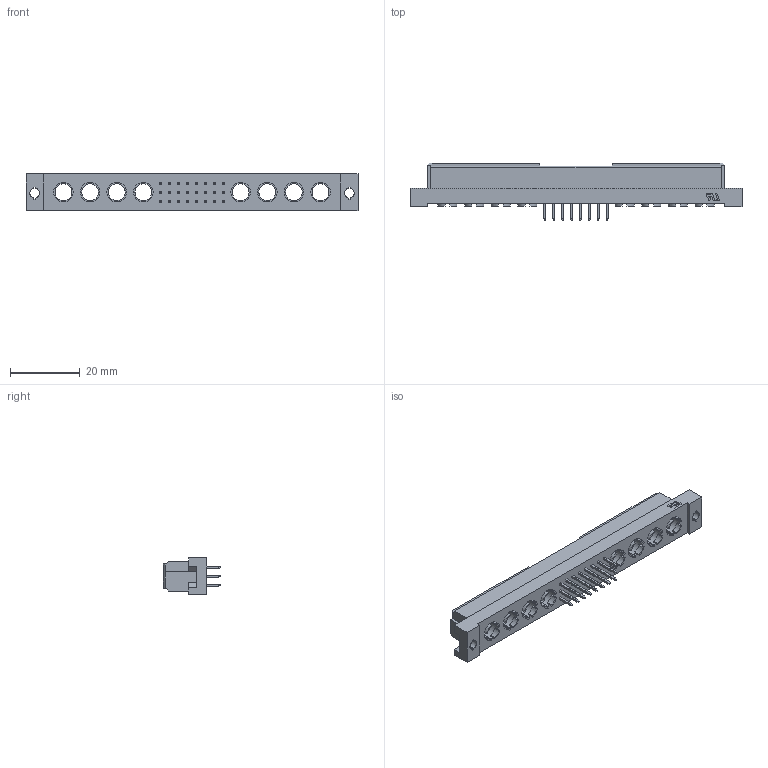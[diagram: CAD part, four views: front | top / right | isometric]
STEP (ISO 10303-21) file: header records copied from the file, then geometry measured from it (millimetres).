
FILE_DESCRIPTION (( 'STEP AP214' ), '1' );
FILE_NAME ('9001-9224081C00DA.STEP', '2020-12-02T09:18:54', ( 'ADMIN' ), ( '' ), 'SwSTEP 2.0', 'SolidWorks 2011', '' );
FILE_SCHEMA (( 'AUTOMOTIVE_DESIGN' ));
Length unit declared in the file: millimetre
Products named in the file (2): 9001-9224081C00DA
Assembly tree (1 placements, depth 2):
  9001-9224081C00DA
    9001-9224081C00DA
Bounding box: 95 x 16.4 x 10.6 mm (x, y, z)
Volume: 6943.8 mm3; surface area: 6240.1 mm2
Topology: 1 solids, 1 shells, 895 faces, 2265 edges, 1422 vertices
Faces by surface type: plane 767, cylinder 128
Entity records: 36230 total; most frequent: CARTESIAN_POINT 4898, ORIENTED_EDGE 4530, DIRECTION 4271, EDGE_CURVE 2265, VECTOR 1849, LINE 1849, VERTEX_POINT 1422, AXIS2_PLACEMENT_3D 1211
